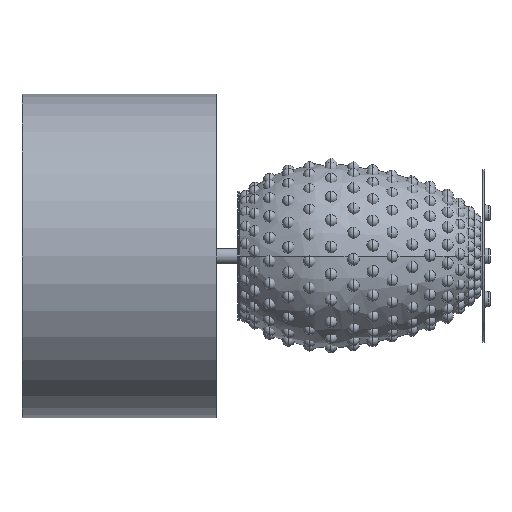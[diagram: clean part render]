
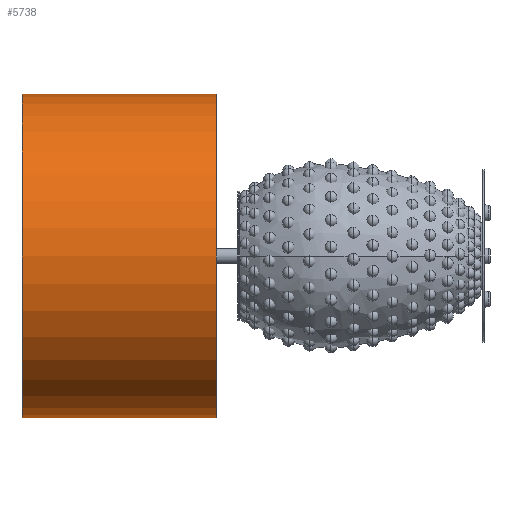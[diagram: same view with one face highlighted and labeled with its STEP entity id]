
A CAD part, left-side view. The second image highlights one B-rep face of the part: STEP entity #5738.
In plain terms, the highlighted cylindrical face has radius 150 mm (diameter 300 mm), a partial arc.
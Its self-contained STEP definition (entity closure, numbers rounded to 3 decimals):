
#615 = DIRECTION ( 'NONE',  ( 0., 0., -1. ) ) ;
#1140 = AXIS2_PLACEMENT_3D ( 'NONE', #20285, #6696, #24750 ) ;
#1397 = CIRCLE ( 'NONE', #28073, 150. ) ;
#1553 = VERTEX_POINT ( 'NONE', #19466 ) ;
#1755 = CARTESIAN_POINT ( 'NONE',  ( 45.818, 369.627, 366.583 ) ) ;
#2867 = AXIS2_PLACEMENT_3D ( 'NONE', #25172, #18440, #7394 ) ;
#4050 = CIRCLE ( 'NONE', #1140, 150. ) ;
#4476 = CARTESIAN_POINT ( 'NONE',  ( 45.818, 369.627, 66.583 ) ) ;
#5738 = ADVANCED_FACE ( 'NONE', ( #8735 ), #26516, .T. ) ;
#6087 = EDGE_CURVE ( 'NONE', #12043, #1553, #4050, .T. ) ;
#6696 = DIRECTION ( 'NONE',  ( 0., -1., 0. ) ) ;
#7212 = CARTESIAN_POINT ( 'NONE',  ( 45.818, 369.627, 216.583 ) ) ;
#7394 = DIRECTION ( 'NONE',  ( 0., 0., -1. ) ) ;
#7605 = DIRECTION ( 'NONE',  ( 0., -1., 0. ) ) ;
#8709 = DIRECTION ( 'NONE',  ( 0., -1., 0. ) ) ;
#8735 = FACE_OUTER_BOUND ( 'NONE', #18173, .T. ) ;
#8898 = DIRECTION ( 'NONE',  ( 0., -1., 0. ) ) ;
#9704 = VECTOR ( 'NONE', #8898, 1000. ) ;
#10867 = EDGE_CURVE ( 'NONE', #22796, #16629, #1397, .T. ) ;
#11020 = ORIENTED_EDGE ( 'NONE', *, *, #10867, .T. ) ;
#12043 = VERTEX_POINT ( 'NONE', #20370 ) ;
#12297 = LINE ( 'NONE', #26818, #13686 ) ;
#13686 = VECTOR ( 'NONE', #8709, 1000. ) ;
#15722 = LINE ( 'NONE', #22119, #9704 ) ;
#16149 = ORIENTED_EDGE ( 'NONE', *, *, #19942, .F. ) ;
#16629 = VERTEX_POINT ( 'NONE', #4476 ) ;
#18173 = EDGE_LOOP ( 'NONE', ( #16149, #11020, #29533, #19874 ) ) ;
#18440 = DIRECTION ( 'NONE',  ( 0., -1., 0. ) ) ;
#19466 = CARTESIAN_POINT ( 'NONE',  ( 45.818, 189.627, 66.583 ) ) ;
#19874 = ORIENTED_EDGE ( 'NONE', *, *, #6087, .F. ) ;
#19942 = EDGE_CURVE ( 'NONE', #22796, #12043, #15722, .T. ) ;
#20285 = CARTESIAN_POINT ( 'NONE',  ( 45.818, 189.627, 216.583 ) ) ;
#20370 = CARTESIAN_POINT ( 'NONE',  ( 45.818, 189.627, 366.583 ) ) ;
#22119 = CARTESIAN_POINT ( 'NONE',  ( 45.818, 167.627, 366.583 ) ) ;
#22796 = VERTEX_POINT ( 'NONE', #1755 ) ;
#22985 = EDGE_CURVE ( 'NONE', #16629, #1553, #12297, .T. ) ;
#24750 = DIRECTION ( 'NONE',  ( 0., 0., -1. ) ) ;
#25172 = CARTESIAN_POINT ( 'NONE',  ( 45.818, 167.627, 216.583 ) ) ;
#26516 = CYLINDRICAL_SURFACE ( 'NONE', #2867, 150. ) ;
#26818 = CARTESIAN_POINT ( 'NONE',  ( 45.818, 167.627, 66.583 ) ) ;
#28073 = AXIS2_PLACEMENT_3D ( 'NONE', #7212, #7605, #615 ) ;
#29533 = ORIENTED_EDGE ( 'NONE', *, *, #22985, .T. ) ;
